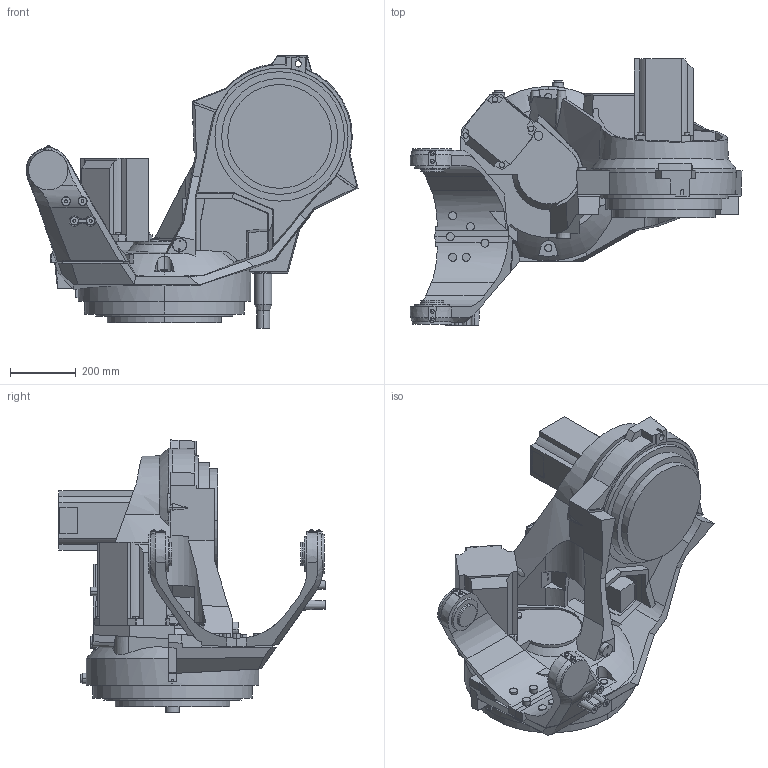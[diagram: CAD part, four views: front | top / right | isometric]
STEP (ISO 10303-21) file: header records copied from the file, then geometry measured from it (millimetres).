
FILE_DESCRIPTION (( 'STEP AP203' ), '1' );
FILE_NAME ('IRB6700-MH6_220-300_IRC5_rev01_LINK01_CAD.STEP', '2014-08-27T11:27:34', ( 'ABB' ), ( 'ABB' ), 'SwSTEP 2.0', 'SolidWorks 2012', '' );
FILE_SCHEMA (( 'CONFIG_CONTROL_DESIGN' ));
Products named in the file (1): IRB6700-MH6_220-300_IRC5_rev01_LINK01_CAD
Bounding box: 1007.58 x 807.5 x 826.11 mm (x, y, z)
Volume: 114939749.7 mm3; surface area: 2949286.4 mm2
Topology: 1 solids, 1 shells, 630 faces, 1713 edges, 1122 vertices
Faces by surface type: plane 372, cylinder 151, cone 75, torus 17, bspline 15
Entity records: 38362 total; most frequent: CARTESIAN_POINT 22957, ORIENTED_EDGE 3394, DIRECTION 2932, EDGE_CURVE 1697, VERTEX_POINT 1122, AXIS2_PLACEMENT_3D 981, VECTOR 970, LINE 970
